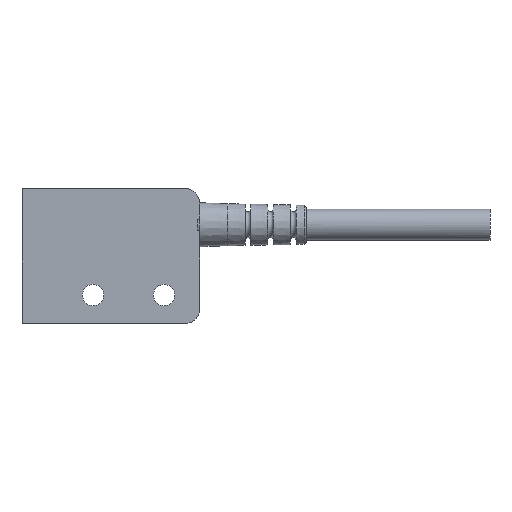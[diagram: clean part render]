
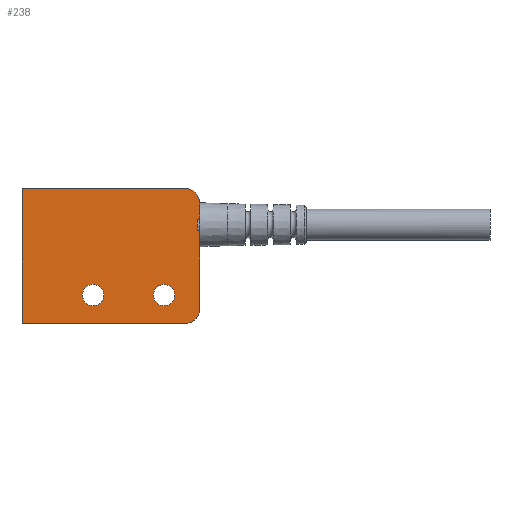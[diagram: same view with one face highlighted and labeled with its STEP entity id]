
A CAD part, top view. The second image highlights one B-rep face of the part: STEP entity #238.
In plain terms, the highlighted planar face has unit normal (0, 0, 1).
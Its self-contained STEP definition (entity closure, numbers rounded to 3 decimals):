
#198=B_SPLINE_CURVE_WITH_KNOTS('',3,(#2091,#2092,#2093,#2094),.UNSPECIFIED.,
 .F.,.F.,(4,4),(0.,1.),.UNSPECIFIED.);
#238=ADVANCED_FACE('',(#496,#497,#498),#328,.T.);
#328=PLANE('',#1473);
#372=LINE('',#2054,#402);
#373=LINE('',#2096,#403);
#376=LINE('',#2112,#406);
#377=LINE('',#2273,#407);
#380=LINE('',#2289,#410);
#381=LINE('',#2305,#411);
#382=LINE('',#2309,#412);
#383=LINE('',#2313,#413);
#384=LINE('',#2314,#414);
#385=LINE('',#2318,#415);
#386=LINE('',#2320,#416);
#402=VECTOR('',#1625,1.);
#403=VECTOR('',#1664,1.);
#406=VECTOR('',#1677,1.);
#407=VECTOR('',#1746,1.);
#410=VECTOR('',#1753,1.);
#411=VECTOR('',#1760,1.);
#412=VECTOR('',#1763,1.);
#413=VECTOR('',#1766,1.);
#414=VECTOR('',#1767,1.);
#415=VECTOR('',#1770,1.);
#416=VECTOR('',#1771,1.);
#496=FACE_BOUND('',#644,.T.);
#497=FACE_BOUND('',#645,.T.);
#498=FACE_BOUND('',#646,.T.);
#644=EDGE_LOOP('',(#858));
#645=EDGE_LOOP('',(#859));
#646=EDGE_LOOP('',(#860,#861,#862,#863,#864,#865,#866,#867,#868,#869,#870,
#871,#872,#873,#874));
#858=ORIENTED_EDGE('',*,*,#1234,.F.);
#859=ORIENTED_EDGE('',*,*,#1235,.F.);
#860=ORIENTED_EDGE('',*,*,#1205,.F.);
#861=ORIENTED_EDGE('',*,*,#1226,.T.);
#862=ORIENTED_EDGE('',*,*,#1236,.T.);
#863=ORIENTED_EDGE('',*,*,#1237,.T.);
#864=ORIENTED_EDGE('',*,*,#1238,.T.);
#865=ORIENTED_EDGE('',*,*,#1239,.T.);
#866=ORIENTED_EDGE('',*,*,#1240,.T.);
#867=ORIENTED_EDGE('',*,*,#1178,.T.);
#868=ORIENTED_EDGE('',*,*,#1241,.T.);
#869=ORIENTED_EDGE('',*,*,#1242,.T.);
#870=ORIENTED_EDGE('',*,*,#1243,.T.);
#871=ORIENTED_EDGE('',*,*,#1244,.T.);
#872=ORIENTED_EDGE('',*,*,#1231,.T.);
#873=ORIENTED_EDGE('',*,*,#1197,.F.);
#874=ORIENTED_EDGE('',*,*,#1196,.F.);
#1054=VERTEX_POINT('',#2048);
#1057=VERTEX_POINT('',#2053);
#1074=VERTEX_POINT('',#2089);
#1075=VERTEX_POINT('',#2090);
#1076=VERTEX_POINT('',#2097);
#1083=VERTEX_POINT('',#2111);
#1102=VERTEX_POINT('',#2274);
#1105=VERTEX_POINT('',#2290);
#1107=VERTEX_POINT('',#2302);
#1108=VERTEX_POINT('',#2304);
#1109=VERTEX_POINT('',#2306);
#1110=VERTEX_POINT('',#2308);
#1111=VERTEX_POINT('',#2310);
#1112=VERTEX_POINT('',#2312);
#1113=VERTEX_POINT('',#2315);
#1114=VERTEX_POINT('',#2317);
#1115=VERTEX_POINT('',#2319);
#1178=EDGE_CURVE('',#1054,#1057,#372,.T.);
#1196=EDGE_CURVE('',#1074,#1075,#198,.T.);
#1197=EDGE_CURVE('',#1075,#1076,#373,.T.);
#1205=EDGE_CURVE('',#1083,#1074,#376,.T.);
#1226=EDGE_CURVE('',#1083,#1102,#377,.T.);
#1231=EDGE_CURVE('',#1105,#1076,#380,.T.);
#1234=EDGE_CURVE('',#1107,#1107,#1348,.T.);
#1235=EDGE_CURVE('',#1108,#1108,#1349,.T.);
#1236=EDGE_CURVE('',#1102,#1109,#381,.T.);
#1237=EDGE_CURVE('',#1109,#1110,#1350,.T.);
#1238=EDGE_CURVE('',#1110,#1111,#382,.T.);
#1239=EDGE_CURVE('',#1111,#1112,#1351,.T.);
#1240=EDGE_CURVE('',#1112,#1054,#383,.T.);
#1241=EDGE_CURVE('',#1057,#1113,#384,.T.);
#1242=EDGE_CURVE('',#1113,#1114,#1352,.T.);
#1243=EDGE_CURVE('',#1114,#1115,#385,.T.);
#1244=EDGE_CURVE('',#1115,#1105,#386,.T.);
#1348=CIRCLE('',#1468,1.5);
#1349=CIRCLE('',#1469,1.5);
#1350=CIRCLE('',#1470,2.);
#1351=CIRCLE('',#1471,2.);
#1352=CIRCLE('',#1472,2.);
#1468=AXIS2_PLACEMENT_3D('',#2301,#1756,#1757);
#1469=AXIS2_PLACEMENT_3D('',#2303,#1758,#1759);
#1470=AXIS2_PLACEMENT_3D('',#2307,#1761,#1762);
#1471=AXIS2_PLACEMENT_3D('',#2311,#1764,#1765);
#1472=AXIS2_PLACEMENT_3D('',#2316,#1768,#1769);
#1473=AXIS2_PLACEMENT_3D('',#2321,#1772,#1773);
#1625=DIRECTION('',(0.,-1.,0.));
#1664=DIRECTION('',(1.,0.,0.));
#1677=DIRECTION('',(-1.,0.,0.));
#1746=DIRECTION('',(0.,1.,0.));
#1753=DIRECTION('',(0.,1.,0.));
#1756=DIRECTION('',(0.,0.,1.));
#1757=DIRECTION('',(1.,0.,0.));
#1758=DIRECTION('',(0.,0.,1.));
#1759=DIRECTION('',(1.,0.,0.));
#1760=DIRECTION('',(0.,1.,0.));
#1761=DIRECTION('',(0.,0.,1.));
#1762=DIRECTION('',(1.,0.,0.));
#1763=DIRECTION('',(-0.313,0.95,0.));
#1764=DIRECTION('',(0.,0.,1.));
#1765=DIRECTION('',(1.,0.,0.));
#1766=DIRECTION('',(-1.,0.,0.));
#1767=DIRECTION('',(1.,0.,0.));
#1768=DIRECTION('',(0.,0.,1.));
#1769=DIRECTION('',(1.,0.,0.));
#1770=DIRECTION('',(0.,1.,0.));
#1771=DIRECTION('',(0.,1.,0.));
#1772=DIRECTION('',(0.,0.,1.));
#1773=DIRECTION('',(1.,0.,0.));
#2048=CARTESIAN_POINT('',(0.,19.,3.));
#2053=CARTESIAN_POINT('',(0.,0.,3.));
#2054=CARTESIAN_POINT('',(0.,19.,3.));
#2089=CARTESIAN_POINT('',(24.701,14.681,3.));
#2090=CARTESIAN_POINT('',(24.701,13.119,3.));
#2091=CARTESIAN_POINT('',(24.701,14.681,3.));
#2092=CARTESIAN_POINT('',(24.701,14.16,3.));
#2093=CARTESIAN_POINT('',(24.701,13.64,3.));
#2094=CARTESIAN_POINT('',(24.701,13.119,3.));
#2096=CARTESIAN_POINT('',(25.001,13.119,3.));
#2097=CARTESIAN_POINT('',(25.,13.119,3.));
#2111=CARTESIAN_POINT('',(25.,14.681,3.));
#2112=CARTESIAN_POINT('',(25.001,14.681,3.));
#2273=CARTESIAN_POINT('',(25.,8.78,3.));
#2274=CARTESIAN_POINT('',(25.,16.601,3.));
#2289=CARTESIAN_POINT('',(25.,8.78,3.));
#2290=CARTESIAN_POINT('',(25.,8.78,3.));
#2301=CARTESIAN_POINT('',(10.,4.,3.));
#2302=CARTESIAN_POINT('',(11.5,4.,3.));
#2303=CARTESIAN_POINT('',(20.,4.,3.));
#2304=CARTESIAN_POINT('',(21.5,4.,3.));
#2305=CARTESIAN_POINT('',(25.001,16.601,3.));
#2306=CARTESIAN_POINT('',(25.001,17.,3.));
#2307=CARTESIAN_POINT('',(23.001,17.,3.));
#2308=CARTESIAN_POINT('',(24.976,17.316,3.));
#2309=CARTESIAN_POINT('',(24.976,17.316,3.));
#2310=CARTESIAN_POINT('',(24.974,17.321,3.));
#2311=CARTESIAN_POINT('',(23.,17.,3.));
#2312=CARTESIAN_POINT('',(23.,19.,3.));
#2313=CARTESIAN_POINT('',(23.,19.,3.));
#2314=CARTESIAN_POINT('',(0.,0.,3.));
#2315=CARTESIAN_POINT('',(23.,0.,3.));
#2316=CARTESIAN_POINT('',(23.,2.,3.));
#2317=CARTESIAN_POINT('',(25.,2.,3.));
#2318=CARTESIAN_POINT('',(25.,2.,3.));
#2319=CARTESIAN_POINT('',(25.,8.2,3.));
#2320=CARTESIAN_POINT('',(25.,8.2,3.));
#2321=CARTESIAN_POINT('',(23.,17.,3.));
